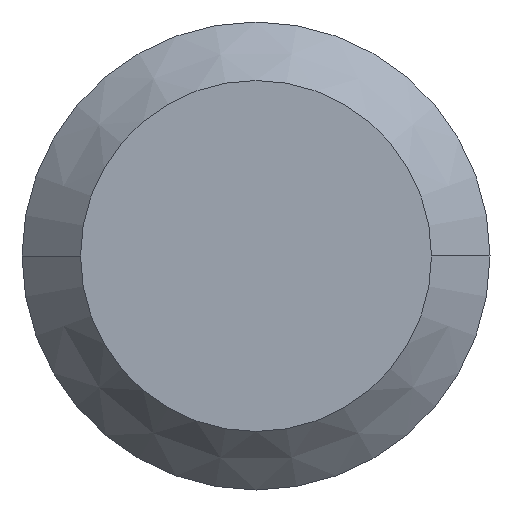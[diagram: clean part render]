
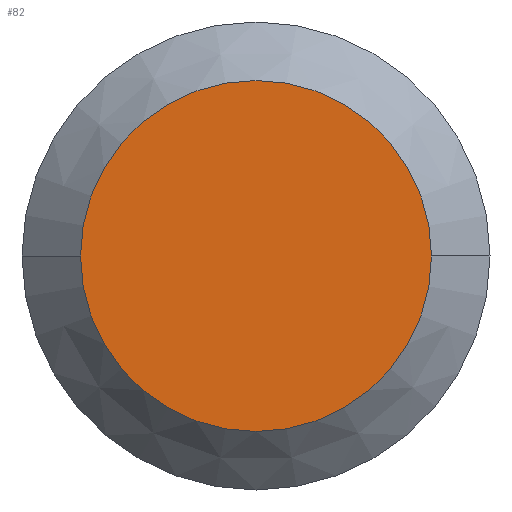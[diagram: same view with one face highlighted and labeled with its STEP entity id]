
A CAD part, front view. The second image highlights one B-rep face of the part: STEP entity #82.
In plain terms, the highlighted planar face has unit normal (0, -1, 0).
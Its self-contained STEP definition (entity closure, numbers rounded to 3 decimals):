
#82 = ADVANCED_FACE( '', ( #98 ), #99, .T. );
#98 = FACE_OUTER_BOUND( '', #114, .T. );
#99 = PLANE( '', #115 );
#114 = EDGE_LOOP( '', ( #163, #164 ) );
#115 = AXIS2_PLACEMENT_3D( '', #165, #166, #167 );
#163 = ORIENTED_EDGE( '', *, *, #171, .T. );
#164 = ORIENTED_EDGE( '', *, *, #181, .T. );
#165 = CARTESIAN_POINT( '', ( -1.5, -19.3, 0. ) );
#166 = DIRECTION( '', ( 0., -1., 0. ) );
#167 = DIRECTION( '', ( -1., 0., 0. ) );
#171 = EDGE_CURVE( '', #183, #187, #189, .T. );
#181 = EDGE_CURVE( '', #187, #183, #203, .T. );
#183 = VERTEX_POINT( '', #205 );
#187 = VERTEX_POINT( '', #210 );
#189 = CIRCLE( '', #213, 3. );
#203 = CIRCLE( '', #231, 3. );
#205 = CARTESIAN_POINT( '', ( -3., -19.3, 0. ) );
#210 = CARTESIAN_POINT( '', ( 3., -19.3, 0. ) );
#213 = AXIS2_PLACEMENT_3D( '', #237, #238, #239 );
#231 = AXIS2_PLACEMENT_3D( '', #259, #260, #261 );
#237 = CARTESIAN_POINT( '', ( 0., -19.3, 0. ) );
#238 = DIRECTION( '', ( 0., -1., 0. ) );
#239 = DIRECTION( '', ( -1., 0., 0. ) );
#259 = CARTESIAN_POINT( '', ( 0., -19.3, 0. ) );
#260 = DIRECTION( '', ( 0., -1., 0. ) );
#261 = DIRECTION( '', ( -1., 0., 0. ) );
